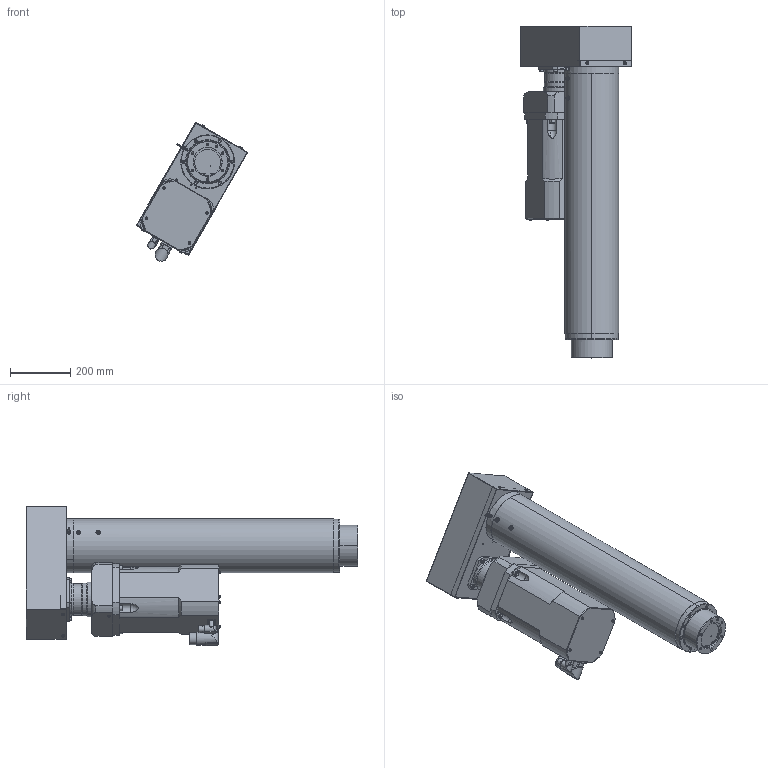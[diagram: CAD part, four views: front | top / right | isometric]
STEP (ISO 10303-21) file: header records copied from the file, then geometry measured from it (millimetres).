
FILE_DESCRIPTION (( 'STEP AP214' ), '1' );
FILE_NAME ('RLWPK060D-055-025HG0.STEP', '2023-04-06T05:44:02', ( '' ), ( '' ), 'SwSTEP 2.0', 'SolidWorks 2021', '' );
FILE_SCHEMA (( 'AUTOMOTIVE_DESIGN' ));
Length unit declared in the file: millimetre
Products named in the file (1): RLWPK060D-055-025HG0
Bounding box: 368.77 x 1097.5 x 460.17 mm (x, y, z)
Volume: 32349007.3 mm3; surface area: 2881633.2 mm2
Topology: 31 solids, 31 shells, 1232 faces, 2910 edges, 1742 vertices
Faces by surface type: cylinder 478, plane 428, cone 218, torus 76, bspline 30, sphere 2
Entity records: 50361 total; most frequent: CARTESIAN_POINT 8024, DIRECTION 6324, ORIENTED_EDGE 5548, EDGE_CURVE 2774, AXIS2_PLACEMENT_3D 2487, VERTEX_POINT 1742, EDGE_LOOP 1468, LINE 1350
